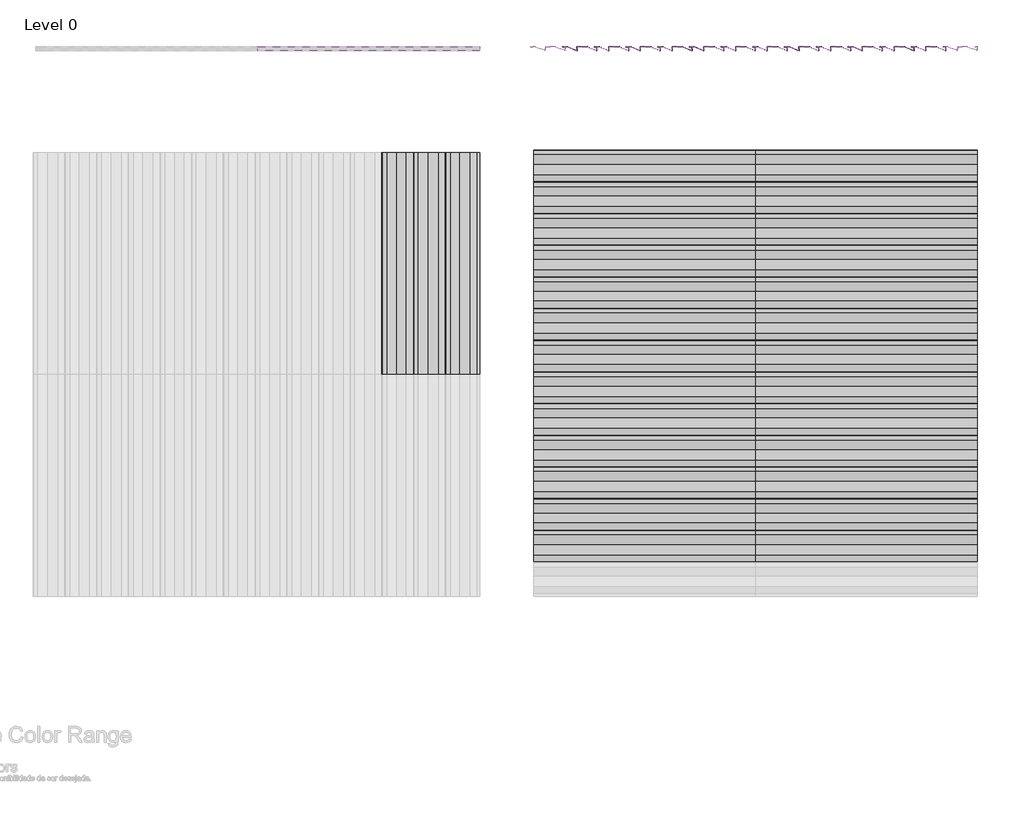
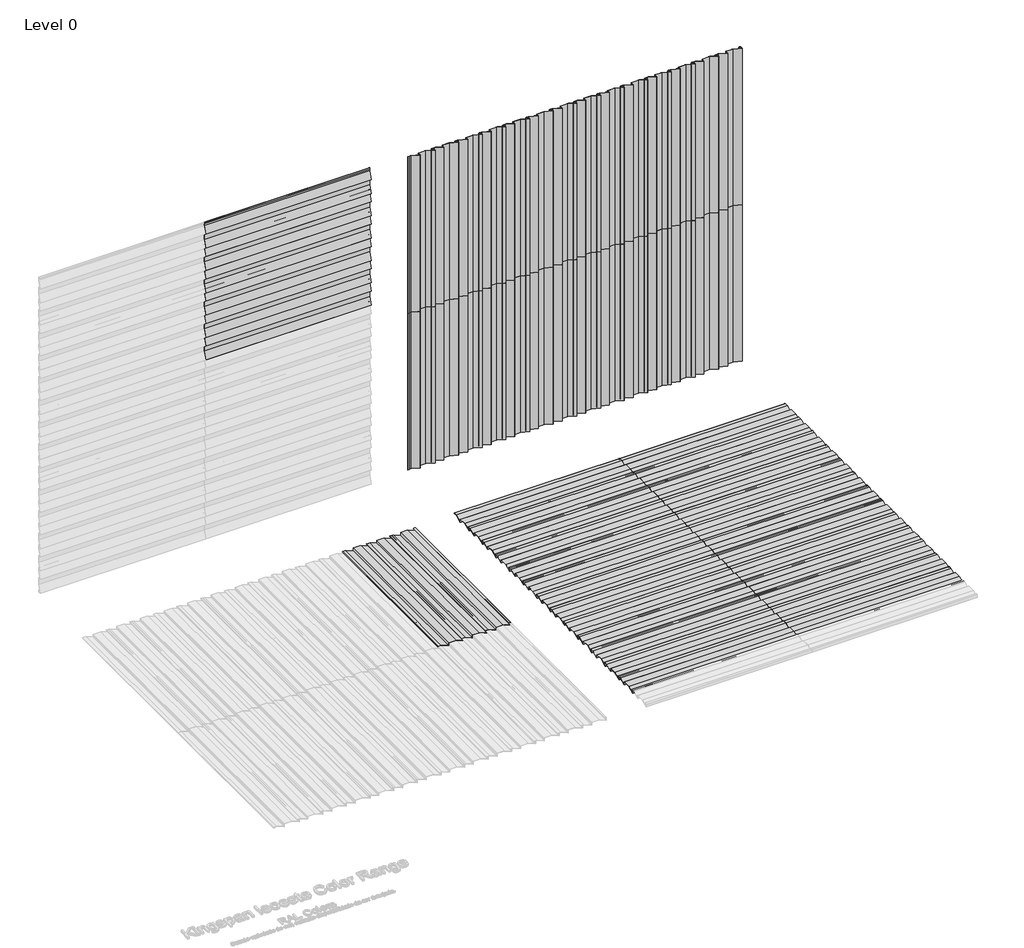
# One storey, part 2 of 2: 63 proxies.
"""IFC4 building model written with IfcOpenShell, lengths in millimetres."""

from ifc_helpers import new_model, si_unit, origin, place, context, project, spatial, transform, mapped, element, save
from components import ps4_0_standard_panel_ns_dd7b3ee9, ps4_0_standard_panel_ns_3b503408

model = new_model("IFC4")

# Units and contexts
model_context = context("Model", 3, world=origin())
ifc_project = project(units=[si_unit("LENGTHUNIT", "METRE", prefix="MILLI")], contexts=[model_context])

# Site, building, storey
site = spatial("IfcSite", under=ifc_project)
building = spatial("IfcBuilding", under=site)
storey = spatial("IfcBuildingStorey", under=building, Name="Level 0", Elevation=0.0)

# Proxies
placement = place(None, origin())
ps4_0_standard_panel_ns_shape = ps4_0_standard_panel_ns_dd7b3ee9(model_context)
element("IfcBuildingElementProxy", 1, Name="PS4.0 : Standard Panel_NS", ObjectType="PS4.0 : Standard Panel_NS", at=placement, inside=storey, context=model_context, shape_type="MappedRepresentation", body=[
    mapped(ps4_0_standard_panel_ns_shape, transform((1889.7088665, 5063.0274074, 0.0), x_axis=(0.0, 0.0, 1.0), y_axis=(-1.0, 0.0, 0.0), z_axis=(0.0, -1.0, 0.0))),
])
element("IfcBuildingElementProxy", 2, Name="PS4.0 : Standard Panel_NS", ObjectType="PS4.0 : Standard Panel_NS", at=placement, inside=storey, context=model_context, shape_type="MappedRepresentation", body=[
    mapped(ps4_0_standard_panel_ns_shape, transform((1889.7088665, 5063.0274074, 2100.0), x_axis=(0.0, 0.0, 1.0), y_axis=(-1.0, 0.0, 0.0), z_axis=(0.0, -1.0, 0.0))),
])
element("IfcBuildingElementProxy", 3, Name="PS4.0 : Standard Panel_NS", ObjectType="PS4.0 : Standard Panel_NS", at=placement, inside=storey, context=model_context, shape_type="MappedRepresentation", body=[
    mapped(ps4_0_standard_panel_ns_shape, transform((-1317.7637295, 5063.0274074, 3600.0), x_axis=(1.0, 0.0, 0.0), y_axis=(0.0, 0.0, 1.0), z_axis=(0.0, -1.0, 0.0))),
])
element("IfcBuildingElementProxy", 4, Name="PS4.0 : Standard Panel_NS", ObjectType="PS4.0 : Standard Panel_NS", at=placement, inside=storey, context=model_context, shape_type="MappedRepresentation", body=[
    mapped(ps4_0_standard_panel_ns_shape, transform((4289.7088665, 5063.0274074, 0.0), x_axis=(0.0, 0.0, 1.0), y_axis=(-1.0, 0.0, 0.0), z_axis=(0.0, -1.0, 0.0))),
])
element("IfcBuildingElementProxy", 5, Name="PS4.0 : Standard Panel_NS", ObjectType="PS4.0 : Standard Panel_NS", at=placement, inside=storey, context=model_context, shape_type="MappedRepresentation", body=[
    mapped(ps4_0_standard_panel_ns_shape, transform((4289.7088665, 5063.0274074, 2100.0), x_axis=(0.0, 0.0, 1.0), y_axis=(-1.0, 0.0, 0.0), z_axis=(0.0, -1.0, 0.0))),
])
ps4_0_standard_panel_ns_2_shape = ps4_0_standard_panel_ns_3b503408(model_context)
element("IfcBuildingElementProxy", 6, Name="PS4.0 : Standard Panel_NS", ObjectType="PS4.0 : Standard Panel_NS", at=placement, inside=storey, context=model_context, shape_type="MappedRepresentation", body=[
    mapped(ps4_0_standard_panel_ns_2_shape, transform((1289.7088668, 1058.3113453, 0.0), x_axis=(1.0, 0.0, 0.0), y_axis=(0.0, 1.0, 0.0), z_axis=(0.0, 0.0, 1.0))),
])
element("IfcBuildingElementProxy", 7, Name="PS4.0 : Standard Panel_NS", ObjectType="PS4.0 : Standard Panel_NS", at=placement, inside=storey, context=model_context, shape_type="MappedRepresentation", body=[
    mapped(ps4_0_standard_panel_ns_2_shape, transform((1289.7088668, 3458.3113453, 0.0), x_axis=(1.0, 0.0, 0.0), y_axis=(0.0, 1.0, 0.0), z_axis=(0.0, 0.0, 1.0))),
])
element("IfcBuildingElementProxy", 8, Name="PS4.0 : Standard Panel_NS", ObjectType="PS4.0 : Standard Panel_NS", at=placement, inside=storey, context=model_context, shape_type="MappedRepresentation", body=[
    mapped(ps4_0_standard_panel_ns_2_shape, transform((3389.7088668, 1058.3113453, 0.0), x_axis=(1.0, 0.0, 0.0), y_axis=(0.0, 1.0, 0.0), z_axis=(0.0, 0.0, 1.0))),
])
element("IfcBuildingElementProxy", 9, Name="PS4.0 : Standard Panel_NS", ObjectType="PS4.0 : Standard Panel_NS", at=placement, inside=storey, context=model_context, shape_type="MappedRepresentation", body=[
    mapped(ps4_0_standard_panel_ns_2_shape, transform((3389.7088668, 3458.3113453, 0.0), x_axis=(1.0, 0.0, 0.0), y_axis=(0.0, 1.0, 0.0), z_axis=(0.0, 0.0, 1.0))),
])
element("IfcBuildingElementProxy", 10, Name="PS4.0 : Standard Panel_NS", ObjectType="PS4.0 : Standard Panel_NS", at=placement, inside=storey, context=model_context, shape_type="MappedRepresentation", body=[
    mapped(ps4_0_standard_panel_ns_shape, transform((3089.7088665, 5063.0274074, 0.0), x_axis=(0.0, 0.0, 1.0), y_axis=(-1.0, 0.0, 0.0), z_axis=(0.0, -1.0, 0.0))),
])
element("IfcBuildingElementProxy", 11, Name="PS4.0 : Standard Panel_NS", ObjectType="PS4.0 : Standard Panel_NS", at=placement, inside=storey, context=model_context, shape_type="MappedRepresentation", body=[
    mapped(ps4_0_standard_panel_ns_shape, transform((3089.7088665, 5063.0274074, 2100.0), x_axis=(0.0, 0.0, 1.0), y_axis=(-1.0, 0.0, 0.0), z_axis=(0.0, -1.0, 0.0))),
])
element("IfcBuildingElementProxy", 12, Name="PS4.0 : Standard Panel_NS", ObjectType="PS4.0 : Standard Panel_NS", at=placement, inside=storey, context=model_context, shape_type="MappedRepresentation", body=[
    mapped(ps4_0_standard_panel_ns_shape, transform((-1317.7637295, 5063.0274074, 2400.0), x_axis=(1.0, 0.0, 0.0), y_axis=(0.0, 0.0, 1.0), z_axis=(0.0, -1.0, 0.0))),
])
element("IfcBuildingElementProxy", 13, Name="PS4.0 : Standard Panel_NS", ObjectType="PS4.0 : Standard Panel_NS", at=placement, inside=storey, context=model_context, shape_type="MappedRepresentation", body=[
    mapped(ps4_0_standard_panel_ns_shape, transform((5489.7088666, 5063.0274074, 0.0), x_axis=(0.0, 0.0, 1.0), y_axis=(-1.0, 0.0, 0.0), z_axis=(0.0, -1.0, 0.0))),
])
element("IfcBuildingElementProxy", 14, Name="PS4.0 : Standard Panel_NS", ObjectType="PS4.0 : Standard Panel_NS", at=placement, inside=storey, context=model_context, shape_type="MappedRepresentation", body=[
    mapped(ps4_0_standard_panel_ns_shape, transform((5489.7088666, 5063.0274074, 2100.0), x_axis=(0.0, 0.0, 1.0), y_axis=(-1.0, 0.0, 0.0), z_axis=(0.0, -1.0, 0.0))),
])
element("IfcBuildingElementProxy", 15, Name="PS4.0 : Standard Panel_NS", ObjectType="PS4.0 : Standard Panel_NS", at=placement, inside=storey, context=model_context, shape_type="MappedRepresentation", body=[
    mapped(ps4_0_standard_panel_ns_2_shape, transform((1289.7088668, 2258.3113453, 0.0), x_axis=(1.0, 0.0, 0.0), y_axis=(0.0, 1.0, 0.0), z_axis=(0.0, 0.0, 1.0))),
])
element("IfcBuildingElementProxy", 16, Name="PS4.0 : Standard Panel_NS", ObjectType="PS4.0 : Standard Panel_NS", at=placement, inside=storey, context=model_context, shape_type="MappedRepresentation", body=[
    mapped(ps4_0_standard_panel_ns_2_shape, transform((782.2362705, 1958.3113453, 0.0), x_axis=(0.0, 1.0, 0.0), y_axis=(-1.0, 0.0, 0.0), z_axis=(0.0, 0.0, 1.0))),
])
element("IfcBuildingElementProxy", 17, Name="PS4.0 : Standard Panel_NS", ObjectType="PS4.0 : Standard Panel_NS", at=placement, inside=storey, context=model_context, shape_type="MappedRepresentation", body=[
    mapped(ps4_0_standard_panel_ns_2_shape, transform((3389.7088668, 2258.3113453, 0.0), x_axis=(1.0, 0.0, 0.0), y_axis=(0.0, 1.0, 0.0), z_axis=(0.0, 0.0, 1.0))),
])
element("IfcBuildingElementProxy", 18, Name="PS4.0 : Standard Panel_NS", ObjectType="PS4.0 : Standard Panel_NS", at=placement, inside=storey, context=model_context, shape_type="MappedRepresentation", body=[
    mapped(ps4_0_standard_panel_ns_2_shape, transform((1289.7088668, 1358.3113453, 0.0), x_axis=(1.0, 0.0, 0.0), y_axis=(0.0, 1.0, 0.0), z_axis=(0.0, 0.0, 1.0))),
])
element("IfcBuildingElementProxy", 19, Name="PS4.0 : Standard Panel_NS", ObjectType="PS4.0 : Standard Panel_NS", at=placement, inside=storey, context=model_context, shape_type="MappedRepresentation", body=[
    mapped(ps4_0_standard_panel_ns_2_shape, transform((1289.7088668, 3758.3113453, 0.0), x_axis=(1.0, 0.0, 0.0), y_axis=(0.0, 1.0, 0.0), z_axis=(0.0, 0.0, 1.0))),
])
element("IfcBuildingElementProxy", 20, Name="PS4.0 : Standard Panel_NS", ObjectType="PS4.0 : Standard Panel_NS", at=placement, inside=storey, context=model_context, shape_type="MappedRepresentation", body=[
    mapped(ps4_0_standard_panel_ns_2_shape, transform((3389.7088668, 1358.3113453, 0.0), x_axis=(1.0, 0.0, 0.0), y_axis=(0.0, 1.0, 0.0), z_axis=(0.0, 0.0, 1.0))),
])
element("IfcBuildingElementProxy", 21, Name="PS4.0 : Standard Panel_NS", ObjectType="PS4.0 : Standard Panel_NS", at=placement, inside=storey, context=model_context, shape_type="MappedRepresentation", body=[
    mapped(ps4_0_standard_panel_ns_2_shape, transform((3389.7088668, 3758.3113453, 0.0), x_axis=(1.0, 0.0, 0.0), y_axis=(0.0, 1.0, 0.0), z_axis=(0.0, 0.0, 1.0))),
])
element("IfcBuildingElementProxy", 22, Name="PS4.0 : Standard Panel_NS", ObjectType="PS4.0 : Standard Panel_NS", at=placement, inside=storey, context=model_context, shape_type="MappedRepresentation", body=[
    mapped(ps4_0_standard_panel_ns_shape, transform((1589.7088666, 5063.0274074, 0.0), x_axis=(0.0, 0.0, 1.0), y_axis=(-1.0, 0.0, 0.0), z_axis=(0.0, -1.0, 0.0))),
])
element("IfcBuildingElementProxy", 23, Name="PS4.0 : Standard Panel_NS", ObjectType="PS4.0 : Standard Panel_NS", at=placement, inside=storey, context=model_context, shape_type="MappedRepresentation", body=[
    mapped(ps4_0_standard_panel_ns_shape, transform((1589.7088666, 5063.0274074, 2100.0), x_axis=(0.0, 0.0, 1.0), y_axis=(-1.0, 0.0, 0.0), z_axis=(0.0, -1.0, 0.0))),
])
element("IfcBuildingElementProxy", 24, Name="PS4.0 : Standard Panel_NS", ObjectType="PS4.0 : Standard Panel_NS", at=placement, inside=storey, context=model_context, shape_type="MappedRepresentation", body=[
    mapped(ps4_0_standard_panel_ns_shape, transform((-1317.7637295, 5063.0274074, 3900.0), x_axis=(1.0, 0.0, 0.0), y_axis=(0.0, 0.0, 1.0), z_axis=(0.0, -1.0, 0.0))),
])
element("IfcBuildingElementProxy", 25, Name="PS4.0 : Standard Panel_NS", ObjectType="PS4.0 : Standard Panel_NS", at=placement, inside=storey, context=model_context, shape_type="MappedRepresentation", body=[
    mapped(ps4_0_standard_panel_ns_shape, transform((3989.7088665, 5063.0274074, 0.0), x_axis=(0.0, 0.0, 1.0), y_axis=(-1.0, 0.0, 0.0), z_axis=(0.0, -1.0, 0.0))),
])
element("IfcBuildingElementProxy", 26, Name="PS4.0 : Standard Panel_NS", ObjectType="PS4.0 : Standard Panel_NS", at=placement, inside=storey, context=model_context, shape_type="MappedRepresentation", body=[
    mapped(ps4_0_standard_panel_ns_shape, transform((3989.7088665, 5063.0274074, 2100.0), x_axis=(0.0, 0.0, 1.0), y_axis=(-1.0, 0.0, 0.0), z_axis=(0.0, -1.0, 0.0))),
])
element("IfcBuildingElementProxy", 27, Name="PS4.0 : Standard Panel_NS", ObjectType="PS4.0 : Standard Panel_NS", at=placement, inside=storey, context=model_context, shape_type="MappedRepresentation", body=[
    mapped(ps4_0_standard_panel_ns_shape, transform((2789.7088665, 5063.0274074, 0.0), x_axis=(0.0, 0.0, 1.0), y_axis=(-1.0, 0.0, 0.0), z_axis=(0.0, -1.0, 0.0))),
])
element("IfcBuildingElementProxy", 28, Name="PS4.0 : Standard Panel_NS", ObjectType="PS4.0 : Standard Panel_NS", at=placement, inside=storey, context=model_context, shape_type="MappedRepresentation", body=[
    mapped(ps4_0_standard_panel_ns_shape, transform((2789.7088665, 5063.0274074, 2100.0), x_axis=(0.0, 0.0, 1.0), y_axis=(-1.0, 0.0, 0.0), z_axis=(0.0, -1.0, 0.0))),
])
element("IfcBuildingElementProxy", 29, Name="PS4.0 : Standard Panel_NS", ObjectType="PS4.0 : Standard Panel_NS", at=placement, inside=storey, context=model_context, shape_type="MappedRepresentation", body=[
    mapped(ps4_0_standard_panel_ns_shape, transform((-1317.7637295, 5063.0274074, 2700.0), x_axis=(1.0, 0.0, 0.0), y_axis=(0.0, 0.0, 1.0), z_axis=(0.0, -1.0, 0.0))),
])
element("IfcBuildingElementProxy", 30, Name="PS4.0 : Standard Panel_NS", ObjectType="PS4.0 : Standard Panel_NS", at=placement, inside=storey, context=model_context, shape_type="MappedRepresentation", body=[
    mapped(ps4_0_standard_panel_ns_shape, transform((5189.7088665, 5063.0274074, 0.0), x_axis=(0.0, 0.0, 1.0), y_axis=(-1.0, 0.0, 0.0), z_axis=(0.0, -1.0, 0.0))),
])
element("IfcBuildingElementProxy", 31, Name="PS4.0 : Standard Panel_NS", ObjectType="PS4.0 : Standard Panel_NS", at=placement, inside=storey, context=model_context, shape_type="MappedRepresentation", body=[
    mapped(ps4_0_standard_panel_ns_shape, transform((5189.7088665, 5063.0274074, 2100.0), x_axis=(0.0, 0.0, 1.0), y_axis=(-1.0, 0.0, 0.0), z_axis=(0.0, -1.0, 0.0))),
])
element("IfcBuildingElementProxy", 32, Name="PS4.0 : Standard Panel_NS", ObjectType="PS4.0 : Standard Panel_NS", at=placement, inside=storey, context=model_context, shape_type="MappedRepresentation", body=[
    mapped(ps4_0_standard_panel_ns_shape, transform((2489.7088665, 5063.0274074, 0.0), x_axis=(0.0, 0.0, 1.0), y_axis=(-1.0, 0.0, 0.0), z_axis=(0.0, -1.0, 0.0))),
])
element("IfcBuildingElementProxy", 33, Name="PS4.0 : Standard Panel_NS", ObjectType="PS4.0 : Standard Panel_NS", at=placement, inside=storey, context=model_context, shape_type="MappedRepresentation", body=[
    mapped(ps4_0_standard_panel_ns_shape, transform((2489.7088665, 5063.0274074, 2100.0), x_axis=(0.0, 0.0, 1.0), y_axis=(-1.0, 0.0, 0.0), z_axis=(0.0, -1.0, 0.0))),
])
element("IfcBuildingElementProxy", 34, Name="PS4.0 : Standard Panel_NS", ObjectType="PS4.0 : Standard Panel_NS", at=placement, inside=storey, context=model_context, shape_type="MappedRepresentation", body=[
    mapped(ps4_0_standard_panel_ns_shape, transform((-1317.7637295, 5063.0274074, 3000.0), x_axis=(1.0, 0.0, 0.0), y_axis=(0.0, 0.0, 1.0), z_axis=(0.0, -1.0, 0.0))),
])
element("IfcBuildingElementProxy", 35, Name="PS4.0 : Standard Panel_NS", ObjectType="PS4.0 : Standard Panel_NS", at=placement, inside=storey, context=model_context, shape_type="MappedRepresentation", body=[
    mapped(ps4_0_standard_panel_ns_shape, transform((4889.7088665, 5063.0274074, 0.0), x_axis=(0.0, 0.0, 1.0), y_axis=(-1.0, 0.0, 0.0), z_axis=(0.0, -1.0, 0.0))),
])
element("IfcBuildingElementProxy", 36, Name="PS4.0 : Standard Panel_NS", ObjectType="PS4.0 : Standard Panel_NS", at=placement, inside=storey, context=model_context, shape_type="MappedRepresentation", body=[
    mapped(ps4_0_standard_panel_ns_shape, transform((4889.7088665, 5063.0274074, 2100.0), x_axis=(0.0, 0.0, 1.0), y_axis=(-1.0, 0.0, 0.0), z_axis=(0.0, -1.0, 0.0))),
])
element("IfcBuildingElementProxy", 37, Name="PS4.0 : Standard Panel_NS", ObjectType="PS4.0 : Standard Panel_NS", at=placement, inside=storey, context=model_context, shape_type="MappedRepresentation", body=[
    mapped(ps4_0_standard_panel_ns_shape, transform((2189.7088665, 5063.0274074, 0.0), x_axis=(0.0, 0.0, 1.0), y_axis=(-1.0, 0.0, 0.0), z_axis=(0.0, -1.0, 0.0))),
])
element("IfcBuildingElementProxy", 38, Name="PS4.0 : Standard Panel_NS", ObjectType="PS4.0 : Standard Panel_NS", at=placement, inside=storey, context=model_context, shape_type="MappedRepresentation", body=[
    mapped(ps4_0_standard_panel_ns_shape, transform((2189.7088665, 5063.0274074, 2100.0), x_axis=(0.0, 0.0, 1.0), y_axis=(-1.0, 0.0, 0.0), z_axis=(0.0, -1.0, 0.0))),
])
element("IfcBuildingElementProxy", 39, Name="PS4.0 : Standard Panel_NS", ObjectType="PS4.0 : Standard Panel_NS", at=placement, inside=storey, context=model_context, shape_type="MappedRepresentation", body=[
    mapped(ps4_0_standard_panel_ns_shape, transform((-1317.7637295, 5063.0274074, 3300.0), x_axis=(1.0, 0.0, 0.0), y_axis=(0.0, 0.0, 1.0), z_axis=(0.0, -1.0, 0.0))),
])
element("IfcBuildingElementProxy", 40, Name="PS4.0 : Standard Panel_NS", ObjectType="PS4.0 : Standard Panel_NS", at=placement, inside=storey, context=model_context, shape_type="MappedRepresentation", body=[
    mapped(ps4_0_standard_panel_ns_shape, transform((4589.7088665, 5063.0274074, 0.0), x_axis=(0.0, 0.0, 1.0), y_axis=(-1.0, 0.0, 0.0), z_axis=(0.0, -1.0, 0.0))),
])
element("IfcBuildingElementProxy", 41, Name="PS4.0 : Standard Panel_NS", ObjectType="PS4.0 : Standard Panel_NS", at=placement, inside=storey, context=model_context, shape_type="MappedRepresentation", body=[
    mapped(ps4_0_standard_panel_ns_shape, transform((4589.7088665, 5063.0274074, 2100.0), x_axis=(0.0, 0.0, 1.0), y_axis=(-1.0, 0.0, 0.0), z_axis=(0.0, -1.0, 0.0))),
])
element("IfcBuildingElementProxy", 42, Name="PS4.0 : Standard Panel_NS", ObjectType="PS4.0 : Standard Panel_NS", at=placement, inside=storey, context=model_context, shape_type="MappedRepresentation", body=[
    mapped(ps4_0_standard_panel_ns_shape, transform((3689.7088665, 5063.0274074, 0.0), x_axis=(0.0, 0.0, 1.0), y_axis=(-1.0, 0.0, 0.0), z_axis=(0.0, -1.0, 0.0))),
])
element("IfcBuildingElementProxy", 43, Name="PS4.0 : Standard Panel_NS", ObjectType="PS4.0 : Standard Panel_NS", at=placement, inside=storey, context=model_context, shape_type="MappedRepresentation", body=[
    mapped(ps4_0_standard_panel_ns_shape, transform((3689.7088665, 5063.0274074, 2100.0), x_axis=(0.0, 0.0, 1.0), y_axis=(-1.0, 0.0, 0.0), z_axis=(0.0, -1.0, 0.0))),
])
element("IfcBuildingElementProxy", 44, Name="PS4.0 : Standard Panel_NS", ObjectType="PS4.0 : Standard Panel_NS", at=placement, inside=storey, context=model_context, shape_type="MappedRepresentation", body=[
    mapped(ps4_0_standard_panel_ns_shape, transform((3389.7088665, 5063.0274074, 0.0), x_axis=(0.0, 0.0, 1.0), y_axis=(-1.0, 0.0, 0.0), z_axis=(0.0, -1.0, 0.0))),
])
element("IfcBuildingElementProxy", 45, Name="PS4.0 : Standard Panel_NS", ObjectType="PS4.0 : Standard Panel_NS", at=placement, inside=storey, context=model_context, shape_type="MappedRepresentation", body=[
    mapped(ps4_0_standard_panel_ns_shape, transform((3389.7088665, 5063.0274074, 2100.0), x_axis=(0.0, 0.0, 1.0), y_axis=(-1.0, 0.0, 0.0), z_axis=(0.0, -1.0, 0.0))),
])
element("IfcBuildingElementProxy", 46, Name="PS4.0 : Standard Panel_NS", ObjectType="PS4.0 : Standard Panel_NS", at=placement, inside=storey, context=model_context, shape_type="MappedRepresentation", body=[
    mapped(ps4_0_standard_panel_ns_2_shape, transform((1289.7088668, 158.3113453, 0.0), x_axis=(1.0, 0.0, 0.0), y_axis=(0.0, 1.0, 0.0), z_axis=(0.0, 0.0, 1.0))),
])
element("IfcBuildingElementProxy", 47, Name="PS4.0 : Standard Panel_NS", ObjectType="PS4.0 : Standard Panel_NS", at=placement, inside=storey, context=model_context, shape_type="MappedRepresentation", body=[
    mapped(ps4_0_standard_panel_ns_2_shape, transform((1289.7088668, 2558.3113453, 0.0), x_axis=(1.0, 0.0, 0.0), y_axis=(0.0, 1.0, 0.0), z_axis=(0.0, 0.0, 1.0))),
])
element("IfcBuildingElementProxy", 48, Name="PS4.0 : Standard Panel_NS", ObjectType="PS4.0 : Standard Panel_NS", at=placement, inside=storey, context=model_context, shape_type="MappedRepresentation", body=[
    mapped(ps4_0_standard_panel_ns_2_shape, transform((482.2362703, 1958.3113453, 0.0), x_axis=(0.0, 1.0, 0.0), y_axis=(-1.0, 0.0, 0.0), z_axis=(0.0, 0.0, 1.0))),
])
element("IfcBuildingElementProxy", 49, Name="PS4.0 : Standard Panel_NS", ObjectType="PS4.0 : Standard Panel_NS", at=placement, inside=storey, context=model_context, shape_type="MappedRepresentation", body=[
    mapped(ps4_0_standard_panel_ns_2_shape, transform((3389.7088668, 158.3113453, 0.0), x_axis=(1.0, 0.0, 0.0), y_axis=(0.0, 1.0, 0.0), z_axis=(0.0, 0.0, 1.0))),
])
element("IfcBuildingElementProxy", 50, Name="PS4.0 : Standard Panel_NS", ObjectType="PS4.0 : Standard Panel_NS", at=placement, inside=storey, context=model_context, shape_type="MappedRepresentation", body=[
    mapped(ps4_0_standard_panel_ns_2_shape, transform((3389.7088668, 2558.3113453, 0.0), x_axis=(1.0, 0.0, 0.0), y_axis=(0.0, 1.0, 0.0), z_axis=(0.0, 0.0, 1.0))),
])
element("IfcBuildingElementProxy", 51, Name="PS4.0 : Standard Panel_NS", ObjectType="PS4.0 : Standard Panel_NS", at=placement, inside=storey, context=model_context, shape_type="MappedRepresentation", body=[
    mapped(ps4_0_standard_panel_ns_2_shape, transform((1289.7088668, 458.3113453, 0.0), x_axis=(1.0, 0.0, 0.0), y_axis=(0.0, 1.0, 0.0), z_axis=(0.0, 0.0, 1.0))),
])
element("IfcBuildingElementProxy", 52, Name="PS4.0 : Standard Panel_NS", ObjectType="PS4.0 : Standard Panel_NS", at=placement, inside=storey, context=model_context, shape_type="MappedRepresentation", body=[
    mapped(ps4_0_standard_panel_ns_2_shape, transform((1289.7088668, 2858.3113453, 0.0), x_axis=(1.0, 0.0, 0.0), y_axis=(0.0, 1.0, 0.0), z_axis=(0.0, 0.0, 1.0))),
])
element("IfcBuildingElementProxy", 53, Name="PS4.0 : Standard Panel_NS", ObjectType="PS4.0 : Standard Panel_NS", at=placement, inside=storey, context=model_context, shape_type="MappedRepresentation", body=[
    mapped(ps4_0_standard_panel_ns_2_shape, transform((182.2362703, 1958.3113453, 0.0), x_axis=(0.0, 1.0, 0.0), y_axis=(-1.0, 0.0, 0.0), z_axis=(0.0, 0.0, 1.0))),
])
element("IfcBuildingElementProxy", 54, Name="PS4.0 : Standard Panel_NS", ObjectType="PS4.0 : Standard Panel_NS", at=placement, inside=storey, context=model_context, shape_type="MappedRepresentation", body=[
    mapped(ps4_0_standard_panel_ns_2_shape, transform((3389.7088668, 458.3113453, 0.0), x_axis=(1.0, 0.0, 0.0), y_axis=(0.0, 1.0, 0.0), z_axis=(0.0, 0.0, 1.0))),
])
element("IfcBuildingElementProxy", 55, Name="PS4.0 : Standard Panel_NS", ObjectType="PS4.0 : Standard Panel_NS", at=placement, inside=storey, context=model_context, shape_type="MappedRepresentation", body=[
    mapped(ps4_0_standard_panel_ns_2_shape, transform((3389.7088668, 2858.3113453, 0.0), x_axis=(1.0, 0.0, 0.0), y_axis=(0.0, 1.0, 0.0), z_axis=(0.0, 0.0, 1.0))),
])
element("IfcBuildingElementProxy", 56, Name="PS4.0 : Standard Panel_NS", ObjectType="PS4.0 : Standard Panel_NS", at=placement, inside=storey, context=model_context, shape_type="MappedRepresentation", body=[
    mapped(ps4_0_standard_panel_ns_2_shape, transform((1289.7088668, 758.3113453, 0.0), x_axis=(1.0, 0.0, 0.0), y_axis=(0.0, 1.0, 0.0), z_axis=(0.0, 0.0, 1.0))),
])
element("IfcBuildingElementProxy", 57, Name="PS4.0 : Standard Panel_NS", ObjectType="PS4.0 : Standard Panel_NS", at=placement, inside=storey, context=model_context, shape_type="MappedRepresentation", body=[
    mapped(ps4_0_standard_panel_ns_2_shape, transform((1289.7088668, 3158.3113453, 0.0), x_axis=(1.0, 0.0, 0.0), y_axis=(0.0, 1.0, 0.0), z_axis=(0.0, 0.0, 1.0))),
])
element("IfcBuildingElementProxy", 58, Name="PS4.0 : Standard Panel_NS", ObjectType="PS4.0 : Standard Panel_NS", at=placement, inside=storey, context=model_context, shape_type="MappedRepresentation", body=[
    mapped(ps4_0_standard_panel_ns_2_shape, transform((3389.7088668, 758.3113453, 0.0), x_axis=(1.0, 0.0, 0.0), y_axis=(0.0, 1.0, 0.0), z_axis=(0.0, 0.0, 1.0))),
])
element("IfcBuildingElementProxy", 59, Name="PS4.0 : Standard Panel_NS", ObjectType="PS4.0 : Standard Panel_NS", at=placement, inside=storey, context=model_context, shape_type="MappedRepresentation", body=[
    mapped(ps4_0_standard_panel_ns_2_shape, transform((3389.7088668, 3158.3113453, 0.0), x_axis=(1.0, 0.0, 0.0), y_axis=(0.0, 1.0, 0.0), z_axis=(0.0, 0.0, 1.0))),
])
element("IfcBuildingElementProxy", 60, Name="PS4.0 : Standard Panel_NS", ObjectType="PS4.0 : Standard Panel_NS", at=placement, inside=storey, context=model_context, shape_type="MappedRepresentation", body=[
    mapped(ps4_0_standard_panel_ns_2_shape, transform((1289.7088668, 1658.3113453, 0.0), x_axis=(1.0, 0.0, 0.0), y_axis=(0.0, 1.0, 0.0), z_axis=(0.0, 0.0, 1.0))),
])
element("IfcBuildingElementProxy", 61, Name="PS4.0 : Standard Panel_NS", ObjectType="PS4.0 : Standard Panel_NS", at=placement, inside=storey, context=model_context, shape_type="MappedRepresentation", body=[
    mapped(ps4_0_standard_panel_ns_2_shape, transform((3389.7088668, 1658.3113453, 0.0), x_axis=(1.0, 0.0, 0.0), y_axis=(0.0, 1.0, 0.0), z_axis=(0.0, 0.0, 1.0))),
])
element("IfcBuildingElementProxy", 62, Name="PS4.0 : Standard Panel_NS", ObjectType="PS4.0 : Standard Panel_NS", at=placement, inside=storey, context=model_context, shape_type="MappedRepresentation", body=[
    mapped(ps4_0_standard_panel_ns_2_shape, transform((1289.7088668, 1958.3113453, 0.0), x_axis=(1.0, 0.0, 0.0), y_axis=(0.0, 1.0, 0.0), z_axis=(0.0, 0.0, 1.0))),
])
element("IfcBuildingElementProxy", 63, Name="PS4.0 : Standard Panel_NS", ObjectType="PS4.0 : Standard Panel_NS", at=placement, inside=storey, context=model_context, shape_type="MappedRepresentation", body=[
    mapped(ps4_0_standard_panel_ns_2_shape, transform((3389.7088668, 1958.3113453, 0.0), x_axis=(1.0, 0.0, 0.0), y_axis=(0.0, 1.0, 0.0), z_axis=(0.0, 0.0, 1.0))),
])

save(model, "model.ifc")
